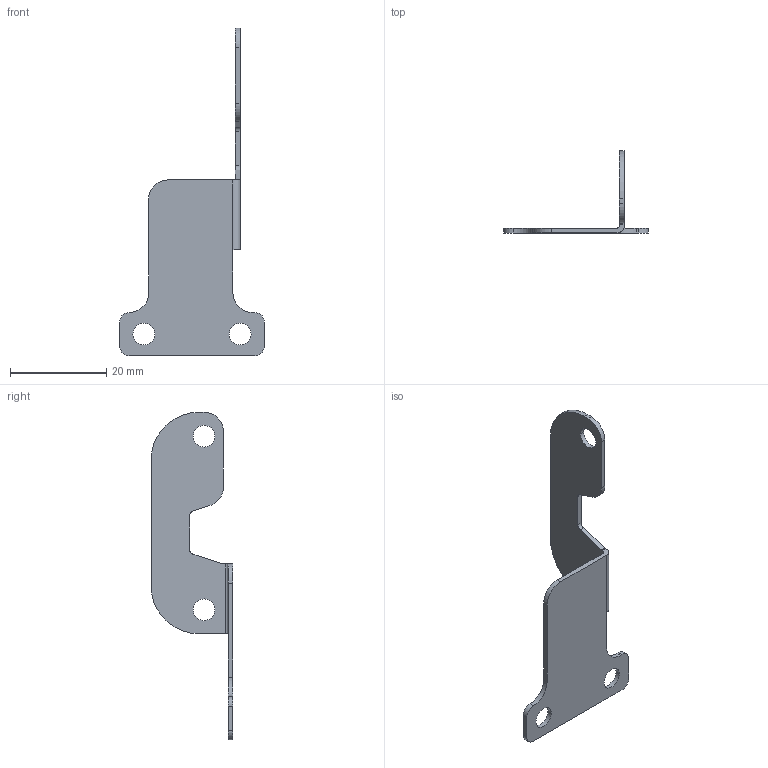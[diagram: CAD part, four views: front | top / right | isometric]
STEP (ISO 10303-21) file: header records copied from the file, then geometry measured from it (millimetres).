
FILE_DESCRIPTION((''),'2;1');
FILE_NAME('2038826','2026-06-29T07:17:17',('l.wegerer'),(''),'CREO PARAMETRIC BY PTC INC, 2019292','CREO PARAMETRIC BY PTC INC, 2019292','');
FILE_SCHEMA(('AUTOMOTIVE_DESIGN { 1 0 10303 214 1 1 1 1 }'));
Length unit declared in the file: millimetre
Products named in the file (1): 2038826
Bounding box: 30 x 17 x 68 mm (x, y, z)
Volume: 1284.7 mm3; surface area: 2846.2 mm2
Topology: 1 solids, 1 shells, 42 faces, 126 edges, 90 vertices
Faces by surface type: cylinder 24, plane 18
Entity records: 2119 total; most frequent: DIRECTION 264, CARTESIAN_POINT 253, ORIENTED_EDGE 244, PRESENTATION_STYLE_ASSIGNMENT 128, STYLED_ITEM 128, CURVE_STYLE 127, EDGE_CURVE 122, AXIS2_PLACEMENT_3D 95
